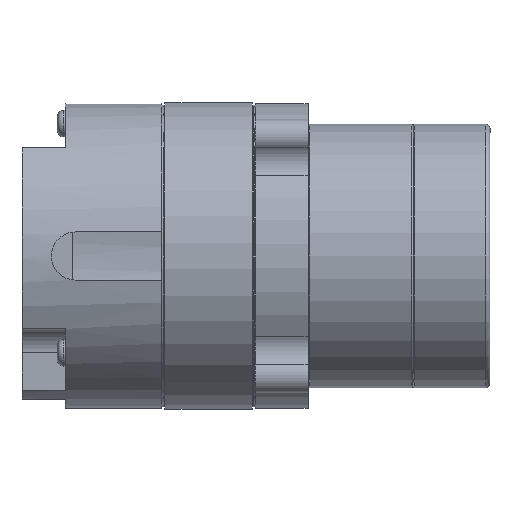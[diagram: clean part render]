
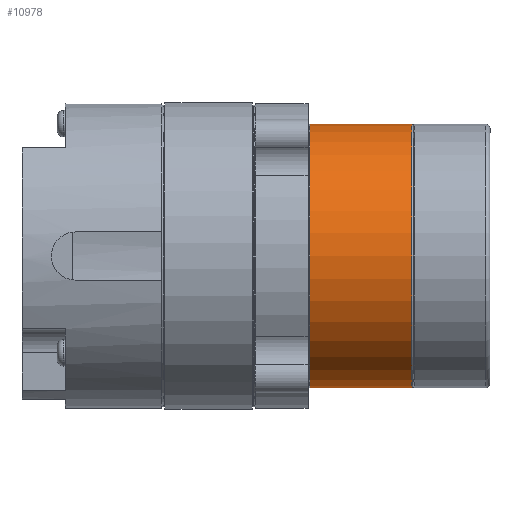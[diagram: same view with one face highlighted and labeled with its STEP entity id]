
A CAD part, front view. The second image highlights one B-rep face of the part: STEP entity #10978.
In plain terms, the highlighted cylindrical face has radius 27.4 mm (diameter 54.8 mm), a full revolution.
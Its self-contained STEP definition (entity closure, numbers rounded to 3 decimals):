
#8016 = VERTEX_POINT ( 'NONE', #30710 ) ;
#9669 = CIRCLE ( 'NONE', #18682, 27.4 ) ;
#10978 = ADVANCED_FACE ( 'NONE', ( #30071, #25212 ), #33607, .T. ) ;
#11270 = DIRECTION ( 'NONE',  ( 0., 0., 1. ) ) ;
#12248 = ORIENTED_EDGE ( 'NONE', *, *, #32434, .T. ) ;
#16018 = CARTESIAN_POINT ( 'NONE',  ( 26.175, 0., -27.4 ) ) ;
#18682 = AXIS2_PLACEMENT_3D ( 'NONE', #22898, #28723, #11270 ) ;
#19491 = DIRECTION ( 'NONE',  ( 0., 0., -1. ) ) ;
#19676 = DIRECTION ( 'NONE',  ( -1., 0., 0. ) ) ;
#22382 = DIRECTION ( 'NONE',  ( 0., 0., -1. ) ) ;
#22898 = CARTESIAN_POINT ( 'NONE',  ( 5.05, 0., 0. ) ) ;
#23787 = AXIS2_PLACEMENT_3D ( 'NONE', #25506, #19676, #19491 ) ;
#25212 = FACE_OUTER_BOUND ( 'NONE', #26858, .T. ) ;
#25389 = CARTESIAN_POINT ( 'NONE',  ( 0., 0., 0. ) ) ;
#25506 = CARTESIAN_POINT ( 'NONE',  ( 26.175, 0., 0. ) ) ;
#26858 = EDGE_LOOP ( 'NONE', ( #34863 ) ) ;
#27484 = AXIS2_PLACEMENT_3D ( 'NONE', #25389, #30822, #22382 ) ;
#28723 = DIRECTION ( 'NONE',  ( 1., 0., 0. ) ) ;
#28854 = EDGE_LOOP ( 'NONE', ( #12248 ) ) ;
#30071 = FACE_OUTER_BOUND ( 'NONE', #28854, .T. ) ;
#30710 = CARTESIAN_POINT ( 'NONE',  ( 5.05, 0., 27.4 ) ) ;
#30822 = DIRECTION ( 'NONE',  ( 1., 0., 0. ) ) ;
#32434 = EDGE_CURVE ( 'NONE', #8016, #8016, #9669, .T. ) ;
#33255 = VERTEX_POINT ( 'NONE', #16018 ) ;
#33338 = CIRCLE ( 'NONE', #23787, 27.4 ) ;
#33607 = CYLINDRICAL_SURFACE ( 'NONE', #27484, 27.4 ) ;
#34863 = ORIENTED_EDGE ( 'NONE', *, *, #36960, .T. ) ;
#36960 = EDGE_CURVE ( 'NONE', #33255, #33255, #33338, .T. ) ;
